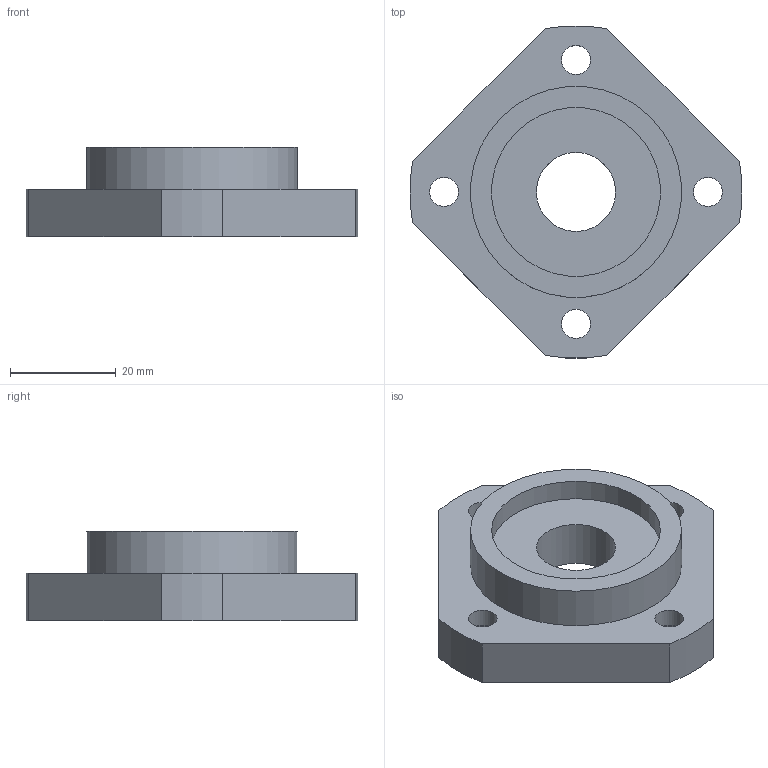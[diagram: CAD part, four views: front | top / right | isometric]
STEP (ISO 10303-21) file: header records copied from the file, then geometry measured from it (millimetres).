
FILE_DESCRIPTION(/* description */ (''),/* implementation_level */ '2;1');
FILE_NAME(/* name */ 'FF15-STP.stp',/* time_stamp */ '2019-11-19T09:07:29+08:00',/* author */ (''),/* organization */ (''),/* preprocessor_version */ 'ST-DEVELOPER v14',/* originating_system */ 'SIEMENS PLM Software NX 8.0',/* authorisation */ '');
FILE_SCHEMA (('AUTOMOTIVE_DESIGN { 1 0 10303 214 3 1 1 1 }'));
Length unit declared in the file: millimetre
Products named in the file (3): 7002; FF15-A; FF15
Assembly tree (2 placements, depth 2):
  FF15
    FF15-A
    7002
Bounding box: 62.88 x 62.88 x 17 mm (x, y, z)
Volume: 23408.4 mm3; surface area: 11270.9 mm2
Topology: 2 solids, 2 shells, 29 faces, 66 edges, 46 vertices
Faces by surface type: cylinder 16, plane 13
Full cylindrical faces by diameter (mm): 5.5 x4, 9.5 x4, 15 x1, 32 x2, 40 x1
Entity records: 818 total; most frequent: DIRECTION 144, CARTESIAN_POINT 120, ORIENTED_EDGE 96, AXIS2_PLACEMENT_3D 64, EDGE_LOOP 58, FACE_BOUND 50, EDGE_CURVE 48, VERTEX_POINT 40
